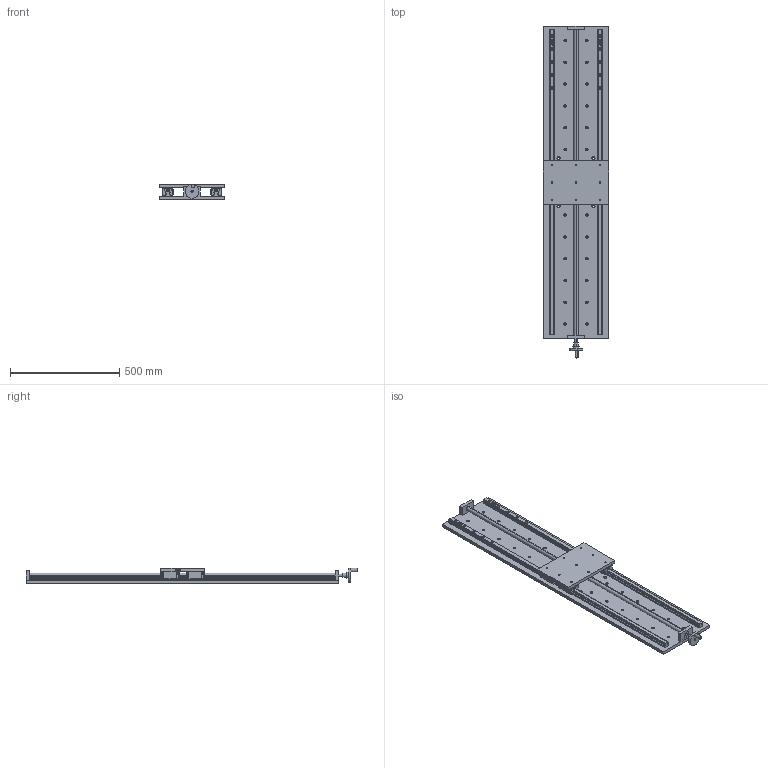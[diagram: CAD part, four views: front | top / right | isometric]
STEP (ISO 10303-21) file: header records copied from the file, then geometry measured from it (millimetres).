
FILE_DESCRIPTION (( 'STEP AP214' ), '1' );
FILE_NAME ('PT300-1200.STEP', '2022-09-18T06:26:18', ( '' ), ( '' ), 'SwSTEP 2.0', 'SolidWorks 2017', '' );
FILE_SCHEMA (( 'AUTOMOTIVE_DESIGN' ));
Length unit declared in the file: millimetre
Products named in the file (12): HGH25CA2R300Z0C_GW202204023669; 忒謫; PT300-1200; 醱啣; 標踡; HGH25C__X2_53F35C01_X0__temp; HGH25C__X2_5DE65C01_X0__temp; M6H; HGR25_temp-1200; 標踡輸; 34320001; 菁啣-1200
Assembly tree (12 placements, depth 3):
  PT300-1200
    菁啣-1200
    醱啣
    HGH25CA2R300Z0C_GW202204023669  x2
      HGR25_temp-1200
      HGH25C__X2_53F35C01_X0__temp
      M6H
      HGH25C__X2_5DE65C01_X0__temp
      34320001
    標踡
      標踡輸
      忒謫
Bounding box: 300 x 1522.1 x 70.06 mm (x, y, z)
Volume: 9526834.4 mm3; surface area: 1567407.2 mm2
Topology: 31 solids, 33 shells, 3109 faces, 8686 edges, 5734 vertices
Faces by surface type: plane 2005, cylinder 838, bspline 202, cone 56, torus 8
Entity records: 76045 total; most frequent: CARTESIAN_POINT 15206, ORIENTED_EDGE 9712, DIRECTION 8880, EDGE_CURVE 4856, LINE 3462, VECTOR 3462, VERTEX_POINT 3223, AXIS2_PLACEMENT_3D 2709
